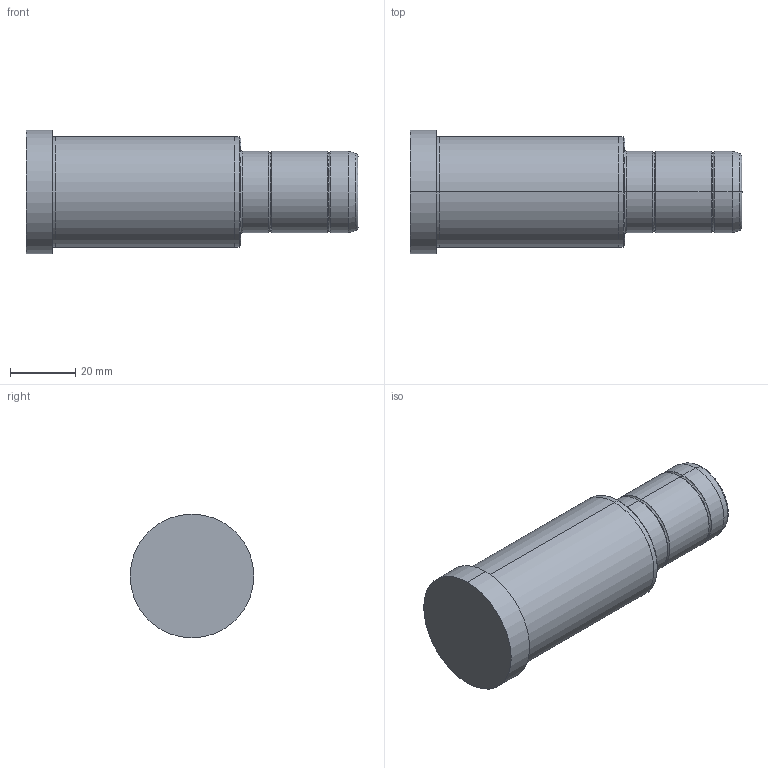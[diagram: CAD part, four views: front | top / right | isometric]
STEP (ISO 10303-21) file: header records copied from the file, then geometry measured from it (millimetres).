
FILE_DESCRIPTION( ( 'STEP AP203' ), '1' );
FILE_NAME( 'C:/Projects/D02 - 25x66x36.step', '2002-12-31T22:24:59', ( ' ' ), ( ' ' ), 'XStep 1.0', ' ', ' ' );
FILE_SCHEMA( ( 'CONFIG_CONTROL_DESIGN' ) );
Length unit declared in the file: metre
Products named in the file (1): 1
Bounding box: 102 x 38 x 38 mm (x, y, z)
Volume: 79292 mm3; surface area: 12209 mm2
Topology: 1 solids, 1 shells, 36 faces, 70 edges, 40 vertices
Faces by surface type: bspline 18, revolution 18
Entity records: 1127 total; most frequent: CARTESIAN_POINT 417, ORIENTED_EDGE 140, DIRECTION 118, EDGE_CURVE 70, AXIS2_PLACEMENT_3D 41, EDGE_LOOP 40, VERTEX_POINT 40, CIRCLE 40
